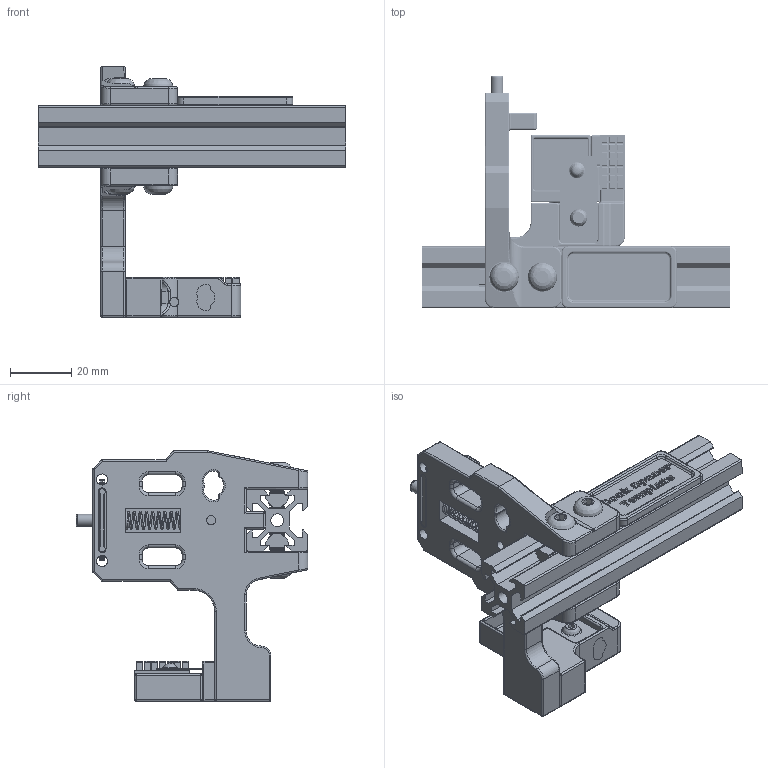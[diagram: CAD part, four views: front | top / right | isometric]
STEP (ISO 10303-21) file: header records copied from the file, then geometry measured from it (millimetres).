
FILE_DESCRIPTION(/* description */ (''),/* implementation_level */ '2;1');
FILE_NAME(/* name */ 'Lineux One r2.1 Dock v36.step',/* time_stamp */ '2025-07-25T15:41:44+07:00',/* author */ (''),/* organization */ (''),/* preprocessor_version */ 'ST-DEVELOPER v20.1',/* originating_system */ 'Autodesk Translation Framework v14.10.0.0',/* authorisation */ '');
FILE_SCHEMA (('AUTOMOTIVE_DESIGN { 1 0 10303 214 3 1 1 }'));
Products named in the file (38): Lineux One r2.1 Dock; Nozzle Blocker; Drip Tray; 6x3mm magnet (2); 6x3mm magnet (3); (a)_drip_tray; Nozzle Blocker Bambulab Brush; Bambulab A1 Brush; nozzle_blocker_mount (1); 6x3mm magnet (5); m3 washer (1); AA battery terminal; m3 x 10mm bhcs (4); m3 hex nut (3); 6x3mm magnet (4); m3 x 10mm bhcs (2); (a)_logo_nb; Dock; dock_1; Hardware (1); m3 x 6mm bhcs (1); 2020 Drop-in T-nut, M5; 2020 Drop-in T-nut, M5_1; m5 x 12mm bhcs (1); m5 x 12mm bhcs (3); Wire; m5 x 12mm bhcs; m5 x 12mm bhcs (2); spring OD6 ID5 20mm; m3 x OD4 16mm threaded dowel pin; m3 heat insert; 6 x 3mm n52 magnet; 8 x 5mm n52 magnet; 8 x 5mm n52 magnet (1); 2020 Drop-in T-nut, M5_2; 2020 Drop-in T-nut, M5_3; 2020 Extrusion; dock_spacer_template
Assembly tree (37 placements, depth 4):
  Lineux One r2.1 Dock
    Nozzle Blocker
      Drip Tray
        6x3mm magnet (2)
        6x3mm magnet (3)
        (a)_drip_tray
      Nozzle Blocker Bambulab Brush
        Bambulab A1 Brush
        nozzle_blocker_mount (1)
        6x3mm magnet (5)
        m3 washer (1)
        AA battery terminal
        m3 x 10mm bhcs (4)
        m3 hex nut (3)
        6x3mm magnet (4)
        m3 x 10mm bhcs (2)
        (a)_logo_nb
    Dock
      dock_1
      Hardware (1)
        m3 x 6mm bhcs (1)
        2020 Drop-in T-nut, M5
        2020 Drop-in T-nut, M5_1
        m5 x 12mm bhcs (1)
        m5 x 12mm bhcs (3)
        Wire
        m5 x 12mm bhcs
        m5 x 12mm bhcs (2)
        spring OD6 ID5 20mm
        m3 x OD4 16mm threaded dowel pin
        m3 heat insert
        6 x 3mm n52 magnet
        8 x 5mm n52 magnet
        8 x 5mm n52 magnet (1)
        2020 Drop-in T-nut, M5_2
        2020 Drop-in T-nut, M5_3
    2020 Extrusion
    dock_spacer_template
Bounding box: 100 x 75.5 x 81.66 mm (x, y, z)
Volume: 57534.2 mm3; surface area: 45329.8 mm2
Topology: 36 solids, 36 shells, 1962 faces, 5029 edges, 3198 vertices
Faces by surface type: plane 861, cylinder 788, bspline 144, torus 96, sphere 41, cone 32
Full cylindrical faces by diameter (mm): 0.3 x14, 2.356 x52, 2.5 x5, 2.529 x11, 2.729 x1, 2.927 x49, 3 x8, 3.086 x5, 3.4 x2, 3.6 x2, 3.99 x16, 4 x1, 4.145 x2, 4.2 x2, 4.7 x1, 4.901 x36, 5.12 x12, 5.5 x4, 5.7 x3, 6 x5, 6.1 x5, 6.7 x1, 7 x1, 8 x2, 8.1 x2, 10 x2
Entity records: 116120 total; most frequent: CARTESIAN_POINT 69329, ORIENTED_EDGE 9996, DIRECTION 8700, EDGE_CURVE 4998, VERTEX_POINT 3198, AXIS2_PLACEMENT_3D 2988, LINE 2724, VECTOR 2724
